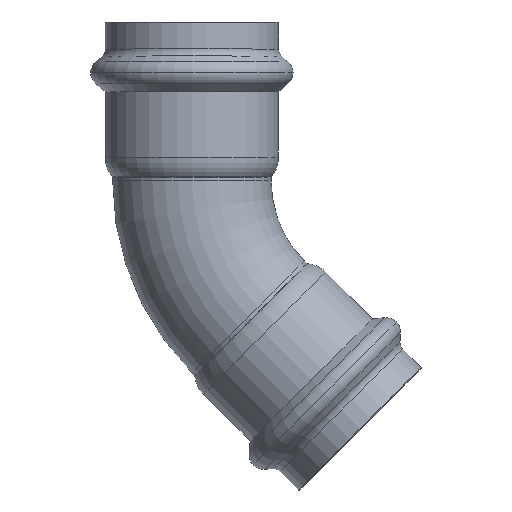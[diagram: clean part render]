
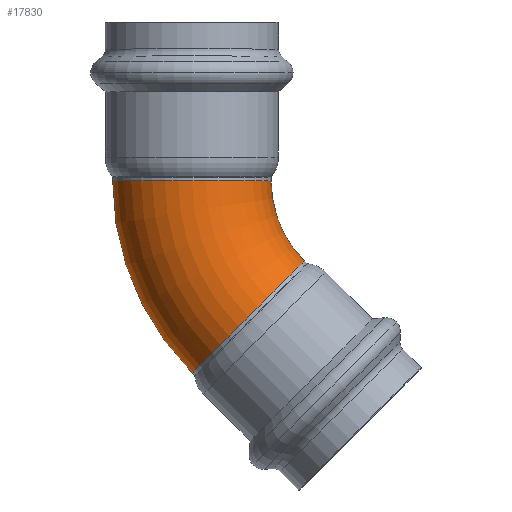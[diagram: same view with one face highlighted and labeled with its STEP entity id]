
A CAD part, top view. The second image highlights one B-rep face of the part: STEP entity #17830.
In plain terms, the highlighted toroidal (fillet/blend) face has major radius 51 mm and minor radius 21 mm.
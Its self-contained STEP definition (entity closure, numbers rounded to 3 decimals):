
#870=CARTESIAN_POINT('',(52.006,36.052,0.
));
#880=VERTEX_POINT('',#870);
#910=CARTESIAN_POINT('',(31.006,36.052,0.));
#920=DIRECTION('',(0.,-1.,0.));
#930=DIRECTION('',(1.,0.,0.));
#940=AXIS2_PLACEMENT_3D('',#910,#920,#930);
#950=CIRCLE('',#940,21.);
#960=CARTESIAN_POINT('',(31.006,36.052,21.));
#970=VERTEX_POINT('',#960);
#980=EDGE_CURVE('',#880,#970,#950,.T.);
#1000=CARTESIAN_POINT('',(10.006,36.052,0.
));
#1010=VERTEX_POINT('',#1000);
#1020=EDGE_CURVE('',#970,#1010,#950,.T.);
#1650=CARTESIAN_POINT('',(31.095,-14.86,0.));
#1660=VERTEX_POINT('',#1650);
#1840=CARTESIAN_POINT('',(60.793,14.839,
0.));
#1850=VERTEX_POINT('',#1840);
#1880=CARTESIAN_POINT('',(45.944,-0.011,0.));
#1890=DIRECTION('',(0.707,-0.707,0.));
#1900=DIRECTION('',(0.707,0.707,0.));
#1910=AXIS2_PLACEMENT_3D('',#1880,#1890,#1900);
#1920=CIRCLE('',#1910,21.);
#3530=CARTESIAN_POINT('',(82.006,36.052,0.));
#3540=DIRECTION('',(0.,0.,1.));
#3550=DIRECTION('',(-1.,0.,0.));
#3560=AXIS2_PLACEMENT_3D('',#3530,#3540,#3550);
#3570=TOROIDAL_SURFACE('',#3560,51.,21.);
#3580=CARTESIAN_POINT('',(82.006,36.052,0.));
#3590=DIRECTION('',(0.,0.,1.));
#3600=DIRECTION('',(-1.,0.,0.));
#3610=AXIS2_PLACEMENT_3D('',#3580,#3590,#3600);
#3620=CIRCLE('',#3610,30.);
#3630=EDGE_CURVE('',#880,#1850,#3620,.T.);
#3720=CARTESIAN_POINT('',(82.006,36.052,0.
));
#3730=DIRECTION('',(0.,0.,1.));
#3740=DIRECTION('',(-1.,0.,0.));
#3750=AXIS2_PLACEMENT_3D('',#3720,#3730,#3740);
#3760=CIRCLE('',#3750,72.);
#3770=EDGE_CURVE('',#1010,#1660,#3760,.T.);
#16470=EDGE_CURVE('',#1850,#1660,#1920,.T.);
#17760=ORIENTED_EDGE('',*,*,#3630,.F.);
#17770=ORIENTED_EDGE('',*,*,#16470,.F.);
#17780=ORIENTED_EDGE('',*,*,#3770,.T.);
#17790=ORIENTED_EDGE('',*,*,#1020,.T.);
#17800=ORIENTED_EDGE('',*,*,#980,.T.);
#17810=EDGE_LOOP('',(#17800,#17790,#17780,#17770,#17760));
#17820=FACE_OUTER_BOUND('',#17810,.T.);
#17830=ADVANCED_FACE('',(#17820),#3570,.T.);
